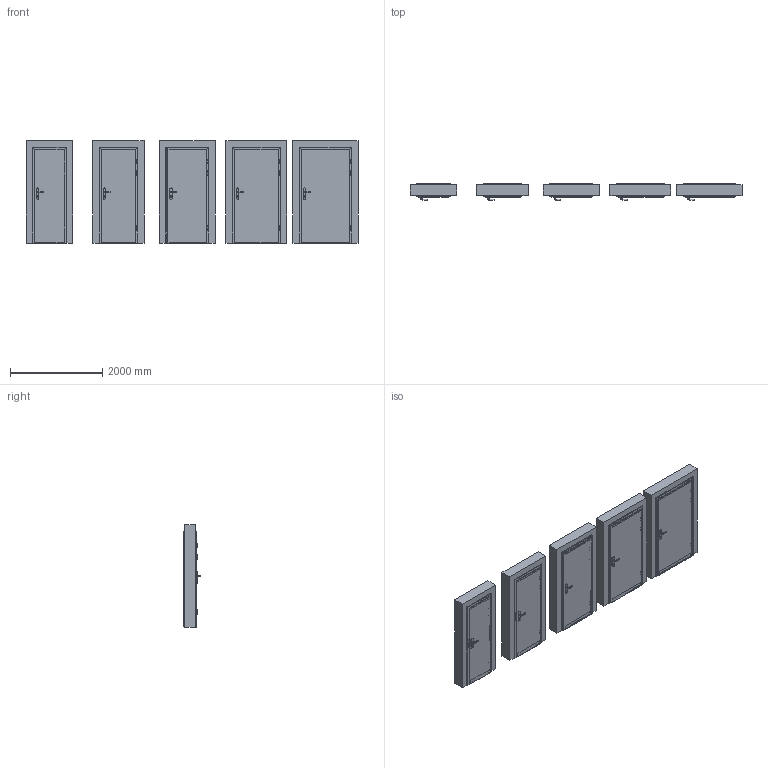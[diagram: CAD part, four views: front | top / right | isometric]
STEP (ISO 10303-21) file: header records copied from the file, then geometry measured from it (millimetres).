
FILE_DESCRIPTION(/* description */ (''),/* implementation_level */ '2;1');
FILE_NAME(/* name */ '050178_A_2-Drzwi akustyczne 27 dB na ościeżnicy Projekt Premium..stp',/* time_stamp */ '2024-09-25T14:01:13+02:00',/* author */ (''),/* organization */ (''),/* preprocessor_version */ 'ST-DEVELOPER v16',/* originating_system */ 'SIEMENS PLM Software NX 11.0',/* authorisation */ '');
FILE_SCHEMA (('AUTOMOTIVE_DESIGN { 1 0 10303 214 3 1 1 1 }'));
Products named in the file (1): bkni5118FD2Ed6gr
Bounding box: 7215 x 358.55 x 2225.78 mm (x, y, z)
Volume: 1421531636.7 mm3; surface area: 110643609.6 mm2
Topology: 445 solids, 450 shells, 11575 faces, 31139 edges, 20214 vertices
Faces by surface type: plane 7225, cylinder 2480, bspline 1160, cone 260, extrusion 230, sphere 180, torus 40
Full cylindrical faces by diameter (mm): 5 x20, 5.5 x10, 6 x30, 7 x20, 7.8 x15, 8 x105, 13.5 x30, 15 x75, 18 x10, 20 x30, 20.5 x30, 30 x10
Entity records: 377485 total; most frequent: CARTESIAN_POINT 92139, ORIENTED_EDGE 60090, DIRECTION 54172, EDGE_CURVE 30045, VECTOR 21820, LINE 21590, VERTEX_POINT 19950, AXIS2_PLACEMENT_3D 16176
